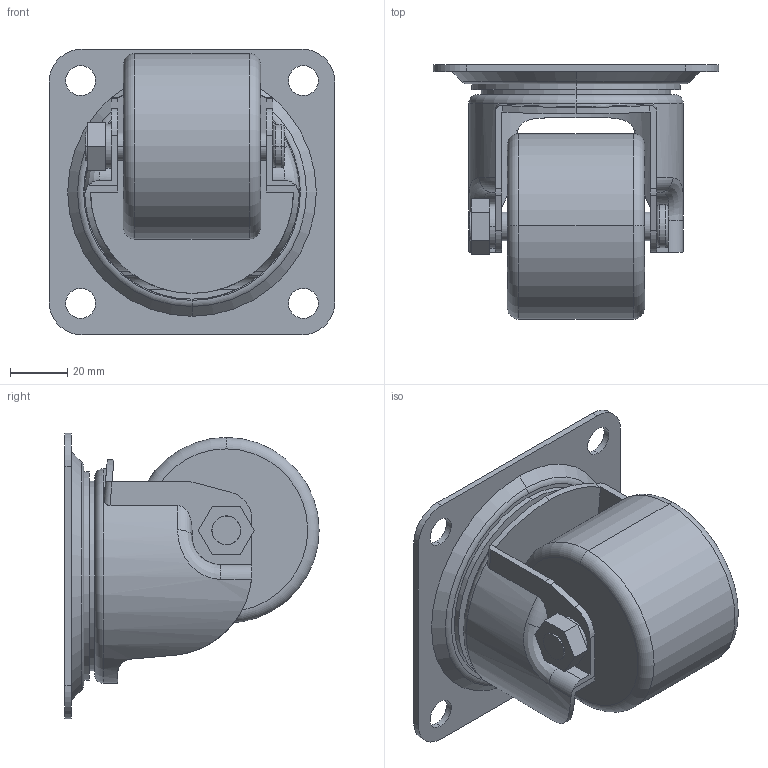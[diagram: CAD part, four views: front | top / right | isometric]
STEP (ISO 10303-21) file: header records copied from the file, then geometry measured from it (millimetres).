
FILE_DESCRIPTION (( 'STEP AP214' ), '1' );
FILE_NAME ('CAL-HUG-65PB.STEP', '2020-04-03T15:41:35', ( '' ), ( '' ), 'SwSTEP 2.0', 'SolidWorks 2019', '' );
FILE_SCHEMA (( 'AUTOMOTIVE_DESIGN' ));
Length unit declared in the file: millimetre
Products named in the file (7): CAL-HUG-65PB; CAL-HUG-65PB_PartsB; M10 t6.5_nut; CAL-HUG-65PB_partsA; CAL-HUG-65PB_wheel; M10 t2_SW; CAL-HUG-65PB_jiku
Assembly tree (6 placements, depth 2):
  CAL-HUG-65PB
    CAL-HUG-65PB_PartsB
    CAL-HUG-65PB_partsA
    CAL-HUG-65PB_wheel
    CAL-HUG-65PB_jiku
    M10 t2_SW
    M10 t6.5_nut
Bounding box: 100 x 89 x 100 mm (x, y, z)
Volume: 256993.4 mm3; surface area: 67124.4 mm2
Topology: 6 solids, 6 shells, 119 faces, 291 edges, 188 vertices
Faces by surface type: cylinder 53, plane 48, torus 14, bspline 2, cone 2
Entity records: 4333 total; most frequent: CARTESIAN_POINT 1163, DIRECTION 643, ORIENTED_EDGE 582, EDGE_CURVE 291, AXIS2_PLACEMENT_3D 254, VERTEX_POINT 188, EDGE_LOOP 141, LINE 135
